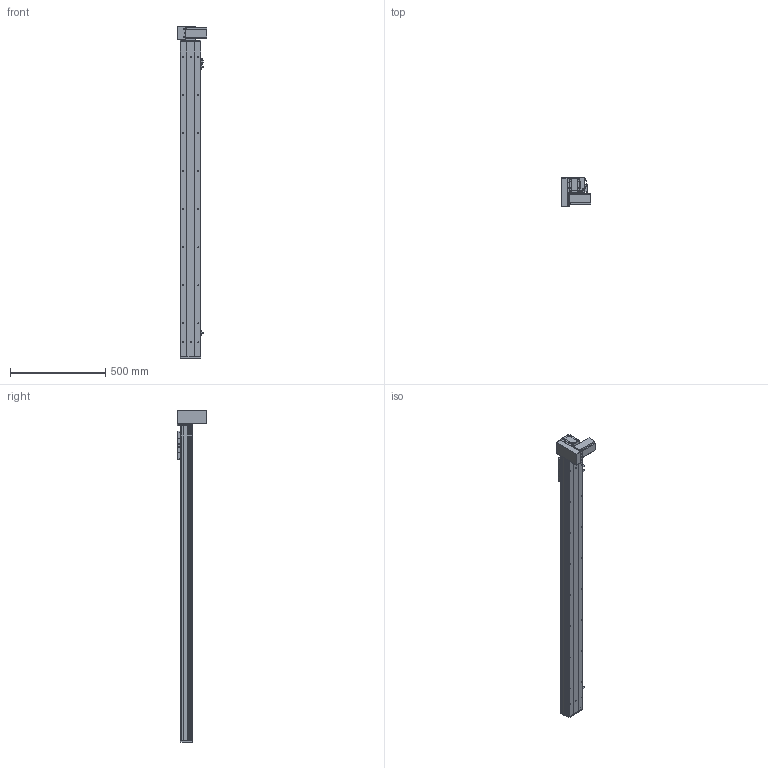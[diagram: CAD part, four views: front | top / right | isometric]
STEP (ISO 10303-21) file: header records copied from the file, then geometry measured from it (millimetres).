
FILE_DESCRIPTION (( 'STEP AP203' ), '1' );
FILE_NAME ('Y10CB-D90-S1400-BM-P400W.STEP', '2020-02-16T09:10:29', ( '微软用户' ), ( '微软中国' ), 'SwSTEP 2.0', 'SolidWorks 2017', '' );
FILE_SCHEMA (( 'CONFIG_CONTROL_DESIGN' ));
Length unit declared in the file: millimetre
Products named in the file (18): Y10CB-D90-S1400-BM-P400W; Y10C---詩湍揤啣; 0Cb-俋欶---; 10CB9-掛极; Y10B-々湍喘謫眊楊擘啣--; 10CB-耜裔; 0B-萇儂楊擘啣; Y135C-陔俋离換覜結え-; san松下电机400不带刹车----; Y100-135俋离換覜ん--; 0B-源倛裔啣; Y10B--々湍喘謫眊--666; 0B-埴倛裔啣; 00B-俋欶BM--; 10CB-詩湍-; Y10B-耜蚾蟀諉啣----; Y10CB- 掛极耜裔啣-毀---; 0CB-雄赽釱---
Assembly tree (21 placements, depth 2):
  Y10CB-D90-S1400-BM-P400W
    0CB-雄赽釱---
    0Cb-俋欶---
    Y10B-々湍喘謫眊楊擘啣--
    0B-萇儂楊擘啣
    san松下电机400不带刹车----
    0B-源倛裔啣
    0B-埴倛裔啣
    10CB-詩湍-
    Y10CB- 掛极耜裔啣-毀---  x2
    Y10C---詩湍揤啣  x2
    10CB9-掛极
    10CB-耜裔
    Y135C-陔俋离換覜結え-
    Y100-135俋离換覜ん--  x3
    Y10B--々湍喘謫眊--666
    00B-俋欶BM--
    Y10B-耜蚾蟀諉啣----
Bounding box: 157 x 156 x 1746 mm (x, y, z)
Volume: 3833862.1 mm3; surface area: 1763720.5 mm2
Topology: 21 solids, 21 shells, 1014 faces, 2723 edges, 1778 vertices
Faces by surface type: cylinder 509, plane 481, cone 24
Entity records: 31912 total; most frequent: CARTESIAN_POINT 5765, DIRECTION 5134, ORIENTED_EDGE 4916, EDGE_CURVE 2458, AXIS2_PLACEMENT_3D 1837, VERTEX_POINT 1604, VECTOR 1460, LINE 1460
